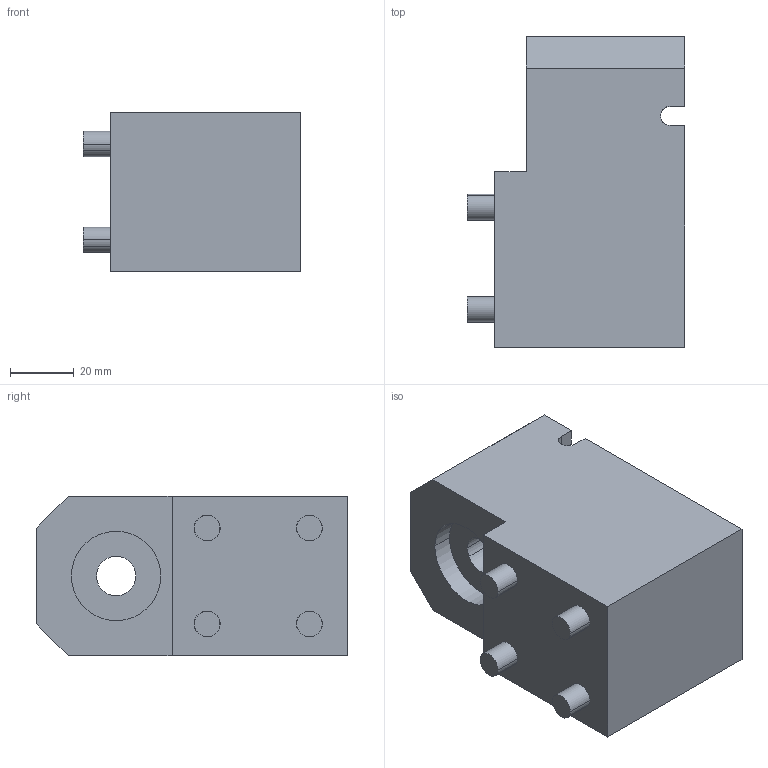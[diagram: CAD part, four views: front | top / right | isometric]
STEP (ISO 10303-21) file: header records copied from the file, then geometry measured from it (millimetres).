
FILE_DESCRIPTION(('STEP AP214'),'1');
FILE_NAME('EGT196_I_1720292_RD40_K50_HH.CATPart.stp','2015-09-14T13:12:27',('3D-Tool'),(' '),'Spatial InterOp 3D',' ',' ');
FILE_SCHEMA(('automotive_design'));
Length unit declared in the file: millimetre
Products named in the file (5): EGT196_I_1720292_RD40_K50_HH|EGT196_RD40_K50_HH|Bohrbearbeitung; 1; 2; 3; 4
Bounding box: 68 x 97.5 x 50 mm (x, y, z)
Volume: 222142.9 mm3; surface area: 43793.3 mm2
Topology: 5 solids, 5 shells, 115 faces, 286 edges, 190 vertices
Faces by surface type: cylinder 80, plane 35
Entity records: 4622 total; most frequent: DIRECTION 682, CARTESIAN_POINT 664, ORIENTED_EDGE 572, EDGE_CURVE 286, AXIS2_PLACEMENT_3D 280, VERTEX_POINT 190, CIRCLE 160, EDGE_LOOP 134
